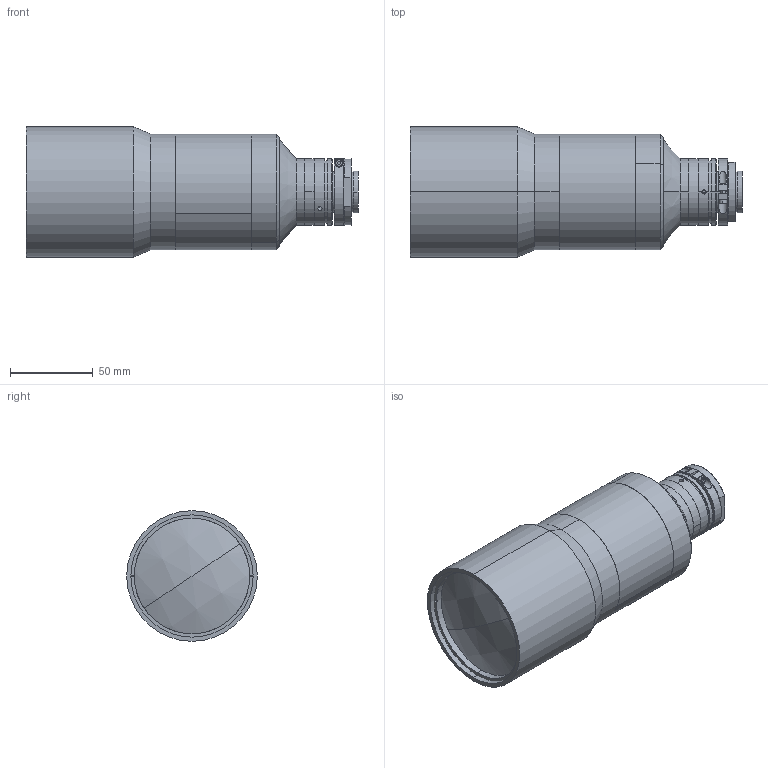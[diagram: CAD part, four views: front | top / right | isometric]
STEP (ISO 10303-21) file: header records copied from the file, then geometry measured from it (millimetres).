
FILE_DESCRIPTION (( 'STEP AP203' ), '1' );
FILE_NAME ('XF-PTL05511-C.STEP', '2020-05-09T01:42:26', ( 'puyufan' ), ( '' ), 'SwSTEP 2.0', 'SolidWorks 2014', '' );
FILE_SCHEMA (( 'CONFIG_CONTROL_DESIGN' ));
Length unit declared in the file: millimetre
Products named in the file (1): XF-PTL05511-C
Bounding box: 200.83 x 79 x 79 mm (x, y, z)
Surface area: 61493.7 mm2 (no closed solid volume)
Topology: 0 solids, 15 shells, 120 faces, 326 edges, 229 vertices
Faces by surface type: cylinder 52, plane 44, cone 10, torus 10, sphere 4
Entity records: 4263 total; most frequent: CARTESIAN_POINT 1070, DIRECTION 709, ORIENTED_EDGE 551, EDGE_CURVE 326, AXIS2_PLACEMENT_3D 292, VERTEX_POINT 229, CIRCLE 171, EDGE_LOOP 150
